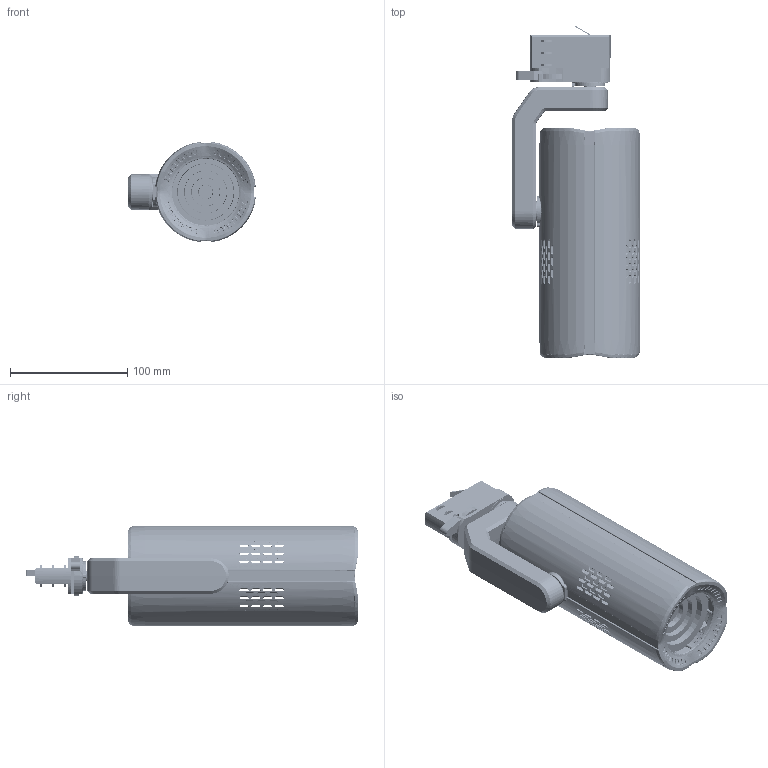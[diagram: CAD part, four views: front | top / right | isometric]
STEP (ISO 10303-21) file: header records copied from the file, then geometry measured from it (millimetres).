
FILE_DESCRIPTION(('HOOPS Exchange Step'),'2;1');
FILE_NAME('E:\cdb\hoops_acs\acs\9788\78328\FINAL\G4_31501-31502\015219-4-Light Fixture.step','2024-06-14T14:03:00+02:00',('caddok'),('Unknown organisation'),'HOOPS Exchange 2024.0','HOOPS Exchange','Unknown authorisation');
FILE_SCHEMA( ('AP242_MANAGED_MODEL_BASED_3D_ENGINEERING_MIM_LF {1 0 10303 442 1 1 4 }') );
Length unit declared in the file: millimetre
Products named in the file (2): Standard; 015219-4-Light Fixture
Assembly tree (1 placements, depth 2):
  015219-4-Light Fixture
    Standard
Bounding box: 108.68 x 282.6 x 85.46 mm (x, y, z)
Topology: 28 solids, 32 shells, 8283 faces, 20922 edges, 12754 vertices
Faces by surface type: bspline 3679, plane 1995, cylinder 1609, cone 986, torus 14
Full cylindrical faces by diameter (mm): 2.2 x4, 2.3 x24, 2.5 x29, 3 x20, 3.2 x4, 3.3 x9, 3.5 x17, 4 x1, 4.3 x2, 5 x5, 5.5 x7, 5.6 x4, 6 x1, 6.5 x1, 7 x1, 7.5 x1, 9 x1, 9.9 x1, 10 x2, 12 x1, 12.4 x2, 13 x1, 16.5 x1, 17 x1, 25 x1, 30 x1, 62 x1, 66 x1, 79.5 x1
Entity records: 632812 total; most frequent: CARTESIAN_POINT 467259, ORIENTED_EDGE 41666, DIRECTION 23268, EDGE_CURVE 20833, VERTEX_POINT 12754, B_SPLINE_CURVE_WITH_KNOTS 10664, EDGE_LOOP 8733, FACE_BOUND 8733
